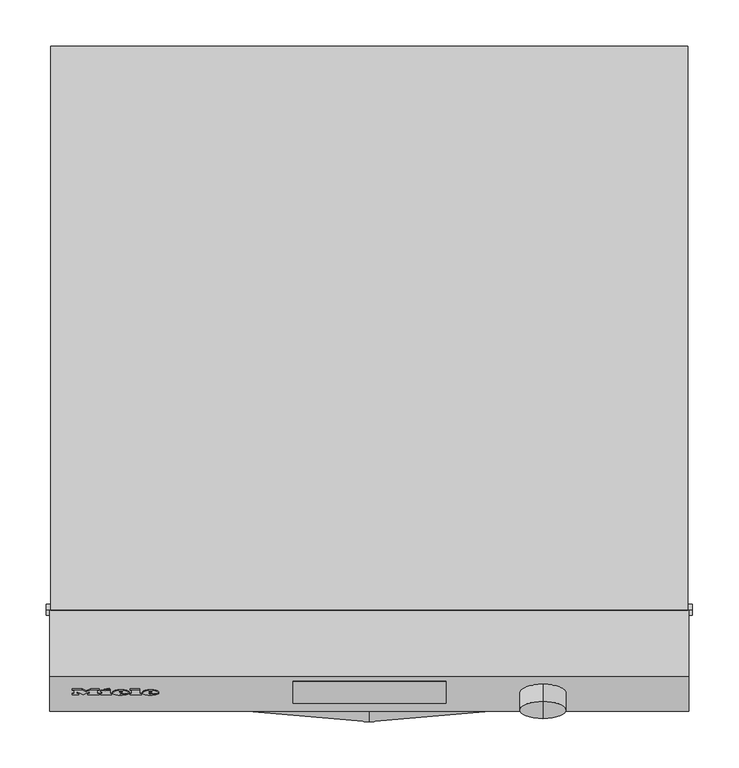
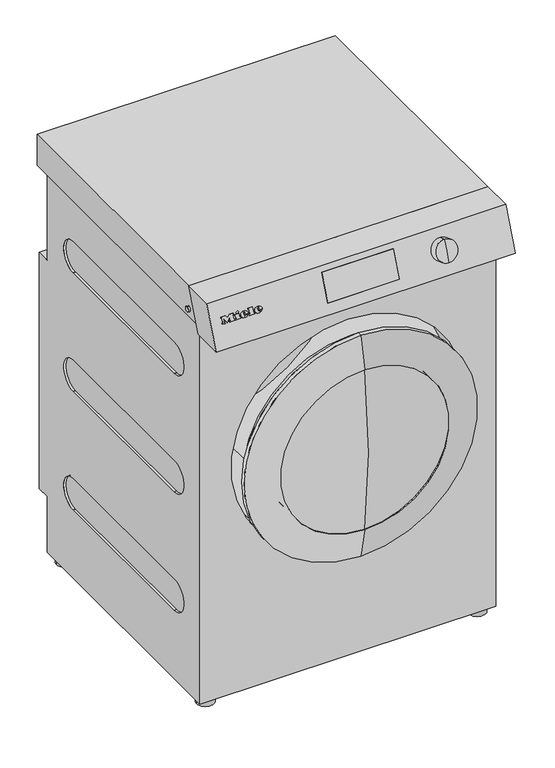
"""IFC4 building model written with IfcOpenShell, lengths in millimetres: proxy geometry, 11927690_EU_PDR510TOPEL_SST : 52510005_EU_11927690_PDR510TOPEL_SST."""

from ifc_helpers import new_model, si_unit, point, frame, frame_2d, origin, origin_with_axes, place, context, project, spatial, polyline, circle_curve, ellipse_curve, trimmed, segment, composite_curve, outline, extrude, faceted_brep, source, transform, mapped, element, save
from ifc_brep_helpers import plane_surface, cylinder_surface, revolved_surface, extruded_surface, advanced_brep


def specialty_equipment_035a6127(model_context):
    return source(origin(), model_context, "Body", "SolidModel", [
        advanced_brep(
        [(-238.2722, -700.6126019, 975.6957235), (-238.2722, -700.0401393, 977.1419447), (-227.9696, -700.0401393, 977.1419447), (-245.8952, -700.0401393, 977.1419447), (-241.6602, -701.9559051, 972.3021154), (-228.2314, -700.6126019, 975.6957235), (-232.8822, -700.6126019, 975.6957235), (-236.5474, -701.2474119, 974.0919931), (-238.2722, -699.3146422, 978.9747795), (-238.2722, -698.6968361, 980.5355529), (-235.6388, -698.6968361, 980.5355529), (-235.6388, -699.3146422, 978.9747795), (-238.2722, -699.6827953, 975.3276751), (-236.5474, -700.3176052, 973.7239446), (-232.8822, -699.6827953, 975.3276751), (-228.2314, -699.6827953, 975.3276751), (-241.6602, -701.0260985, 971.9340669), (-245.8952, -699.1103327, 976.7738963), (-227.9696, -699.1103327, 976.7738963), (-238.2722, -699.1103327, 976.7738963), (-238.2722, -698.3848356, 978.6067311), (-235.6388, -698.3848356, 978.6067311), (-235.6388, -697.7670295, 980.1675045), (-238.2722, -697.7670295, 980.1675045)],
        [
            (0, 1),
            (1, 2),
            (2, 3, ellipse_curve(frame((-236.9324, -700.0401393, 977.1419447), z_axis=(0.0, -0.9298066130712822, 0.36804845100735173), x_axis=(-1.0, 0.0, 0.0)), 8.9628, 7.4074)),
            (3, 4, circle_curve(frame((-239.935316, -699.8474292, 977.6287915), z_axis=(0.0, -0.9298066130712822, 0.36804845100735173), x_axis=(0.0, -0.36804845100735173, -0.9298066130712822)), 5.98284)),
            (4, 5, circle_curve(frame((-237.1118224, -698.3510914, 981.4090133), z_axis=(0.0, -0.9298066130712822, 0.36804845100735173), x_axis=(0.0, -0.36804845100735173, -0.9298066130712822)), 10.7989819)),
            (5, 6),
            (6, 7, circle_curve(frame((-235.7946118, -700.0854829, 977.0273926), z_axis=(0.0, 0.9298066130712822, -0.36804845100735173), x_axis=(0.0, -0.36804845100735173, -0.9298066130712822)), 3.2455106)),
            (7, 0, circle_curve(frame((-236.5474, -700.6126019, 975.6957235), z_axis=(0.0, 0.9298066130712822, -0.36804845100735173), x_axis=(0.0, -0.36804845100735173, -0.9298066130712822)), 1.7248)),
            (8, 9),
            (9, 10, circle_curve(frame((-236.9555, -698.6968361, 980.5355529), z_axis=(0.0, 0.9298066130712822, -0.36804845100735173), x_axis=(0.0, -0.36804845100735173, -0.9298066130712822)), 1.3167)),
            (10, 11),
            (11, 8),
            (12, 13, circle_curve(frame((-236.5474, -699.6827953, 975.3276751), z_axis=(0.0, -0.9298066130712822, 0.36804845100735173), x_axis=(0.0, -0.36804845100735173, -0.9298066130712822)), 1.7248)),
            (13, 14, circle_curve(frame((-235.7946118, -699.1556763, 976.6593441), z_axis=(0.0, -0.9298066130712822, 0.36804845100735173), x_axis=(0.0, -0.36804845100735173, -0.9298066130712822)), 3.2455106)),
            (14, 15),
            (15, 16, circle_curve(frame((-237.1118224, -697.4212848, 981.0409648), z_axis=(0.0, 0.9298066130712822, -0.36804845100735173), x_axis=(0.0, -0.36804845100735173, -0.9298066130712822)), 10.7989819)),
            (16, 17, circle_curve(frame((-239.935316, -698.9176225, 977.260743), z_axis=(0.0, 0.9298066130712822, -0.36804845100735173), x_axis=(0.0, -0.36804845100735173, -0.9298066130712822)), 5.98284)),
            (17, 18, ellipse_curve(frame((-236.9324, -699.1103327, 976.7738963), z_axis=(0.0, 0.9298066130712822, -0.36804845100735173), x_axis=(-1.0, 0.0, 0.0)), 8.9628, 7.4074)),
            (18, 19),
            (19, 12),
            (20, 21),
            (21, 22),
            (22, 23, circle_curve(frame((-236.9555, -697.7670295, 980.1675045), z_axis=(0.0, -0.9298066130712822, 0.36804845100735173), x_axis=(0.0, -0.36804845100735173, -0.9298066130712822)), 1.3167)),
            (23, 20),
            (0, 12),
            (19, 1),
            (18, 2),
            (5, 15),
            (14, 6),
            (17, 3),
            (13, 7),
            (16, 4),
            (8, 20),
            (23, 9),
            (22, 10),
            (21, 11),
        ],
        [
            plane_surface(frame((-238.2722, -700.0401393, 977.1419447), z_axis=(0.0, -0.9298066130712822, 0.36804845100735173), x_axis=(0.0, 0.36804845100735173, 0.9298066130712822))),
            plane_surface(frame((-238.2722, -699.1103327, 976.7738963), z_axis=(0.0, 0.9298066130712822, -0.36804845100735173), x_axis=(0.0, -0.36804845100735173, -0.9298066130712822))),
            plane_surface(frame((-238.2722, -700.6126019, 975.6957235), z_axis=(1.0, 0.0, 0.0), x_axis=(0.0, 0.9298066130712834, -0.3680484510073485))),
            plane_surface(frame((-238.2722, -700.0401393, 977.1419447), z_axis=(0.0, -0.3680484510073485, -0.9298066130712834), x_axis=(0.0, 0.9298066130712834, -0.3680484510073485))),
            plane_surface(frame((-228.2314, -700.6126019, 975.6957235), z_axis=(0.0, 0.3680484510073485, 0.9298066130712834), x_axis=(0.0, 0.9298066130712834, -0.3680484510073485))),
            extruded_surface(trimmed(ellipse_curve(frame((-236.9324, -698.1805261, 976.4058478), z_axis=(0.0, -0.9298066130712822, 0.36804845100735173), x_axis=(-1.0, 0.0, 0.0)), 8.9628, 7.4074), [point((-227.9696, -698.1805261, 976.4058478))], [point((-245.8952, -698.1805261, 976.4058478))], True, "CARTESIAN"), (0.0, -0.9298066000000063, 0.3680485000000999), 1.0000000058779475),
            revolved_surface(polyline([(-235.7946118, -700.3501813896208, 973.6416468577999), (-235.7946118, -701.2799880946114, 974.009695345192)]), (-235.7946118, -699.1556763, 976.6593441), (0.0, 0.9298066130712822, -0.36804845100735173)),
            revolved_surface(polyline([(-236.5474, -700.3176051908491, 973.723944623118), (-236.5474, -701.2474118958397, 974.0919931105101)]), (-236.5474, -699.6827953, 975.3276751), (0.0, 0.9298066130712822, -0.36804845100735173)),
            cylinder_surface(frame((-239.935316, -698.9176225, 977.260743), z_axis=(0.0, -0.9298066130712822, 0.36804845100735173), x_axis=(0.0, -0.36804845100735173, -0.9298066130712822)), 5.98284),
            cylinder_surface(frame((-237.1118224, -697.4212848, 981.0409648), z_axis=(0.0, -0.9298066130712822, 0.36804845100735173), x_axis=(0.0, -0.36804845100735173, -0.9298066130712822)), 10.7989819),
            plane_surface(frame((-238.2722, -699.3146422, 978.9747795), z_axis=(1.0, 0.0, 0.0), x_axis=(0.0, 0.9298066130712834, -0.3680484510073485))),
            revolved_surface(polyline([(-236.9555, -698.2516388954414, 978.943228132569), (-236.9555, -699.1814454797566, 979.3112765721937)]), (-236.9555, -697.7670295, 980.1675045), (0.0, 0.9298066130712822, -0.36804845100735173)),
            plane_surface(frame((-235.6388, -698.6968361, 980.5355529), z_axis=(-1.0, 0.0, 0.0), x_axis=(0.0, 0.9298066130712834, -0.3680484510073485))),
            plane_surface(frame((-235.6388, -699.3146422, 978.9747795), z_axis=(0.0, 0.3680484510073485, 0.9298066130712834), x_axis=(0.0, 0.9298066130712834, -0.3680484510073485))),
        ],
        [
            (0, [[1, 2, 3, 4, 5, 6, 7, 8], [9, 10, 11, 12]]),
            (1, [[13, 14, 15, 16, 17, 18, 19, 20], [21, 22, 23, 24]]),
            (2, [[-1, 25, -20, 26]]),
            (3, [[-2, -26, -19, 27]]),
            (4, [[-6, 28, -15, 29]]),
            (5, [[-3, -27, -18, 30]]),
            (6, [[-7, -29, -14, 31]]),
            (7, [[-8, -31, -13, -25]]),
            (8, [[-4, -30, -17, 32]]),
            (9, [[-5, -32, -16, -28]]),
            (10, [[-9, 33, -24, 34]]),
            (11, [[-10, -34, -23, 35]]),
            (12, [[-11, -35, -22, 36]]),
            (13, [[-12, -36, -21, -33]]),
        ],
    ),
        advanced_brep(
        [(-270.412, -700.6126019, 975.6957235), (-270.412, -700.0401393, 977.1419447), (-260.1094, -700.0401393, 977.1419447), (-278.035, -700.0401393, 977.1419447), (-273.8, -701.9559051, 972.3021154), (-260.3712, -700.6126019, 975.6957235), (-265.022, -700.6126019, 975.6957235), (-268.6872, -701.2474119, 974.0919931), (-270.412, -699.3146422, 978.9747795), (-270.412, -698.6968361, 980.5355529), (-267.7786, -698.6968361, 980.5355529), (-267.7786, -699.3146422, 978.9747795), (-270.412, -699.6827953, 975.3276751), (-268.6872, -700.3176052, 973.7239446), (-265.022, -699.6827953, 975.3276751), (-260.3712, -699.6827953, 975.3276751), (-273.8, -701.0260985, 971.9340669), (-278.035, -699.1103327, 976.7738963), (-260.1094, -699.1103327, 976.7738963), (-270.412, -699.1103327, 976.7738963), (-270.412, -698.3848356, 978.6067311), (-267.7786, -698.3848356, 978.6067311), (-267.7786, -697.7670295, 980.1675045), (-270.412, -697.7670295, 980.1675045)],
        [
            (0, 1),
            (1, 2),
            (2, 3, ellipse_curve(frame((-269.0722, -700.0401393, 977.1419447), z_axis=(0.0, -0.9298066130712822, 0.36804845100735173), x_axis=(-1.0, 0.0, 0.0)), 8.9628, 7.4074)),
            (3, 4, circle_curve(frame((-272.075116, -699.8474292, 977.6287915), z_axis=(0.0, -0.9298066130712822, 0.36804845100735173), x_axis=(0.0, -0.36804845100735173, -0.9298066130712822)), 5.98284)),
            (4, 5, circle_curve(frame((-269.2516224, -698.3510914, 981.4090133), z_axis=(0.0, -0.9298066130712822, 0.36804845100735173), x_axis=(0.0, -0.36804845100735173, -0.9298066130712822)), 10.7989819)),
            (5, 6),
            (6, 7, circle_curve(frame((-267.9344118, -700.0854829, 977.0273926), z_axis=(0.0, 0.9298066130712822, -0.36804845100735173), x_axis=(0.0, -0.36804845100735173, -0.9298066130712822)), 3.2455106)),
            (7, 0, circle_curve(frame((-268.6872, -700.6126019, 975.6957235), z_axis=(0.0, 0.9298066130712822, -0.36804845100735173), x_axis=(0.0, -0.36804845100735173, -0.9298066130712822)), 1.7248)),
            (8, 9),
            (9, 10, circle_curve(frame((-269.0953, -698.6968361, 980.5355529), z_axis=(0.0, 0.9298066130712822, -0.36804845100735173), x_axis=(0.0, -0.36804845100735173, -0.9298066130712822)), 1.3167)),
            (10, 11),
            (11, 8),
            (12, 13, circle_curve(frame((-268.6872, -699.6827953, 975.3276751), z_axis=(0.0, -0.9298066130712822, 0.36804845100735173), x_axis=(0.0, -0.36804845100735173, -0.9298066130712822)), 1.7248)),
            (13, 14, circle_curve(frame((-267.9344118, -699.1556763, 976.6593441), z_axis=(0.0, -0.9298066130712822, 0.36804845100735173), x_axis=(0.0, -0.36804845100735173, -0.9298066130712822)), 3.2455106)),
            (14, 15),
            (15, 16, circle_curve(frame((-269.2516224, -697.4212848, 981.0409648), z_axis=(0.0, 0.9298066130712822, -0.36804845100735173), x_axis=(0.0, -0.36804845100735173, -0.9298066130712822)), 10.7989819)),
            (16, 17, circle_curve(frame((-272.075116, -698.9176225, 977.260743), z_axis=(0.0, 0.9298066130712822, -0.36804845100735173), x_axis=(0.0, -0.36804845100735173, -0.9298066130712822)), 5.98284)),
            (17, 18, ellipse_curve(frame((-269.0722, -699.1103327, 976.7738963), z_axis=(0.0, 0.9298066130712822, -0.36804845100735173), x_axis=(-1.0, 0.0, 0.0)), 8.9628, 7.4074)),
            (18, 19),
            (19, 12),
            (20, 21),
            (21, 22),
            (22, 23, circle_curve(frame((-269.0953, -697.7670295, 980.1675045), z_axis=(0.0, -0.9298066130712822, 0.36804845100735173), x_axis=(0.0, -0.36804845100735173, -0.9298066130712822)), 1.3167)),
            (23, 20),
            (0, 12),
            (19, 1),
            (18, 2),
            (5, 15),
            (14, 6),
            (17, 3),
            (13, 7),
            (16, 4),
            (8, 20),
            (23, 9),
            (22, 10),
            (21, 11),
        ],
        [
            plane_surface(frame((-270.412, -700.0401393, 977.1419447), z_axis=(0.0, -0.9298066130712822, 0.36804845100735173), x_axis=(0.0, 0.36804845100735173, 0.9298066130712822))),
            plane_surface(frame((-270.412, -699.1103327, 976.7738963), z_axis=(0.0, 0.9298066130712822, -0.36804845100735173), x_axis=(0.0, -0.36804845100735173, -0.9298066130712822))),
            plane_surface(frame((-270.412, -700.6126019, 975.6957235), z_axis=(1.0, 0.0, 0.0), x_axis=(0.0, 0.9298066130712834, -0.3680484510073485))),
            plane_surface(frame((-270.412, -700.0401393, 977.1419447), z_axis=(0.0, -0.3680484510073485, -0.9298066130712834), x_axis=(0.0, 0.9298066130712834, -0.3680484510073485))),
            plane_surface(frame((-260.3712, -700.6126019, 975.6957235), z_axis=(0.0, 0.3680484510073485, 0.9298066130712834), x_axis=(0.0, 0.9298066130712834, -0.3680484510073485))),
            extruded_surface(trimmed(ellipse_curve(frame((-269.0722, -698.1805261, 976.4058478), z_axis=(0.0, -0.9298066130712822, 0.36804845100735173), x_axis=(-1.0, 0.0, 0.0)), 8.9628, 7.4074), [point((-260.1094, -698.1805261, 976.4058478))], [point((-278.035, -698.1805261, 976.4058478))], True, "CARTESIAN"), (0.0, -0.9298066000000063, 0.3680485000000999), 1.0000000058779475),
            revolved_surface(polyline([(-267.9344118, -700.3501813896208, 973.6416468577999), (-267.9344118, -701.2799880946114, 974.009695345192)]), (-267.9344118, -699.1556763, 976.6593441), (0.0, 0.9298066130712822, -0.36804845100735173)),
            revolved_surface(polyline([(-268.6872, -700.3176051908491, 973.723944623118), (-268.6872, -701.2474118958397, 974.0919931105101)]), (-268.6872, -699.6827953, 975.3276751), (0.0, 0.9298066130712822, -0.36804845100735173)),
            cylinder_surface(frame((-272.075116, -698.9176225, 977.260743), z_axis=(0.0, -0.9298066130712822, 0.36804845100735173), x_axis=(0.0, -0.36804845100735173, -0.9298066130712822)), 5.98284),
            cylinder_surface(frame((-269.2516224, -697.4212848, 981.0409648), z_axis=(0.0, -0.9298066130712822, 0.36804845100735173), x_axis=(0.0, -0.36804845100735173, -0.9298066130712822)), 10.7989819),
            plane_surface(frame((-270.412, -699.3146422, 978.9747795), z_axis=(1.0, 0.0, 0.0), x_axis=(0.0, 0.9298066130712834, -0.3680484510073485))),
            revolved_surface(polyline([(-269.0953, -698.2516388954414, 978.943228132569), (-269.0953, -699.1814454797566, 979.3112765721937)]), (-269.0953, -697.7670295, 980.1675045), (0.0, 0.9298066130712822, -0.36804845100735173)),
            plane_surface(frame((-267.7786, -698.6968361, 980.5355529), z_axis=(-1.0, 0.0, 0.0), x_axis=(0.0, 0.9298066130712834, -0.3680484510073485))),
            plane_surface(frame((-267.7786, -699.3146422, 978.9747795), z_axis=(0.0, 0.3680484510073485, 0.9298066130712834), x_axis=(0.0, 0.9298066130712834, -0.3680484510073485))),
        ],
        [
            (0, [[1, 2, 3, 4, 5, 6, 7, 8], [9, 10, 11, 12]]),
            (1, [[13, 14, 15, 16, 17, 18, 19, 20], [21, 22, 23, 24]]),
            (2, [[-1, 25, -20, 26]]),
            (3, [[-2, -26, -19, 27]]),
            (4, [[-6, 28, -15, 29]]),
            (5, [[-3, -27, -18, 30]]),
            (6, [[-7, -29, -14, 31]]),
            (7, [[-8, -31, -13, -25]]),
            (8, [[-4, -30, -17, 32]]),
            (9, [[-5, -32, -16, -28]]),
            (10, [[-9, 33, -24, 34]]),
            (11, [[-10, -34, -23, 35]]),
            (12, [[-11, -35, -22, 36]]),
            (13, [[-12, -36, -21, -33]]),
        ],
    ),
        extrude(outline(polyline([(0.0, 0.0), (-0.0209991, -5.7737091), (-2.7701549, -5.7597671), (-2.7556966, 0.0), (0.0, 0.0)])), frame((-287.2442, -695.6925612, 985.4082665), z_axis=(0.0, -0.9298066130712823, 0.3680484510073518), x_axis=(-0.4247202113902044, 0.33320333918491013, 0.8417768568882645)), (0.0, 0.0, 1.0), 1.0),
        extrude(outline(polyline([(-0.9497773, 4.6471612), (-5.3516625, -4.7358047), (-13.5635003, -0.8833376), (-14.3222205, -2.5006095), (-16.6644765, -1.4017734), (-11.5038711, 9.5984644), (-9.1616151, 8.4996283), (-9.9399574, 6.8405303), (-4.2237375, 4.1588469), (-3.4453952, 5.8179449), (-0.9497773, 4.6471612)])), frame((-287.2442, -695.6925612, 985.4082665), z_axis=(0.0, -0.9298066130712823, 0.3680484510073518), x_axis=(-0.4247202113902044, 0.33320333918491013, 0.8417768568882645)), (0.0, 0.0, 1.0), 1.0),
        extrude(outline(polyline([(0.0, 0.0), (0.0, -2.5102), (-10.5952, -2.5102), (-10.5952, 10.3026), (-12.4894, 10.3026), (-12.4894, 12.8898), (0.0, 12.8898), (0.0, 10.3026), (-1.848, 10.3026), (-1.848, 0.0), (0.0, 0.0)])), frame((-259.247, -696.2820276, 983.9190882), z_axis=(0.0, -0.9298066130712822, 0.36804845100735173), x_axis=(-1.0, 0.0, 0.0)), (0.0, 0.0, 1.0), 1.0),
        extrude(outline(polyline([(0.0, 0.0), (0.0, -2.5102), (-10.7338, -2.5102), (-15.246, 3.2648), (-19.7428, -2.5102), (-29.1214, -2.5102), (-29.1214, 0.0), (-27.1656, 0.0), (-27.1656, 10.3026), (-29.1214, 10.3026), (-29.1214, 12.8898), (-16.8322, 12.8898), (-16.8322, 10.3026), (-18.7264, 10.3026), (-18.7264, 3.7307777), (-11.8118, 12.8898), (-4.928, 3.7988752), (-4.928, 10.3026), (-6.776, 10.3026), (-6.776, 12.8898), (0.0, 12.8898), (0.0, 10.3026), (-1.8634, 10.3026), (-1.8634, 0.0), (0.0, 0.0)])), frame((-321.7402, -696.2820276, 983.9190882), z_axis=(0.0, -0.9298066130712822, 0.36804845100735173), x_axis=(-1.0, 0.0, 0.0)), (0.0, 0.0, 1.0), 1.0),
        extrude(outline(polyline([(-639.7145833, 946.7), (-711.0145833, 946.7), (-687.0666667, 1007.2), (-615.7666667, 1007.2), (-639.7145833, 946.7)])), frame((-82.85, 0.0, 0.0), z_axis=(1.0, 0.0, 0.0), x_axis=(0.0, 1.0, 0.0)), (0.0, 0.0, 1.0), 165.7),
        faceted_brep([(346.0, -610.7, 1020.0), (346.0, -682.0, 1020.0), (346.0, -720.0, 924.0), (346.0, -648.7, 924.0), (-346.0, -610.7, 1020.0), (-346.0, -648.7, 924.0), (-346.0, -720.0, 924.0), (-346.0, -682.0, 1020.0), (-82.85, -687.0666667, 1007.2), (82.85, -687.0666667, 1007.2), (82.85, -711.0145833, 946.7), (-82.85, -711.0145833, 946.7), (82.85, -615.7666667, 1007.2), (-82.85, -615.7666667, 1007.2), (-82.85, -639.7145833, 946.7), (82.85, -639.7145833, 946.7)], [[[0, 1, 2, 3]], [[4, 5, 6, 7]], [[1, 0, 4, 7]], [[2, 1, 7, 6], [8, 9, 10, 11]], [[3, 2, 6, 5]], [[0, 3, 5, 4], [12, 13, 14, 15]], [[12, 9, 8, 13]], [[13, 8, 11, 14]], [[14, 11, 10, 15]], [[9, 12, 15, 10]]]),
        advanced_brep(
        [(188.0, -727.5986435, 960.8180789), (188.0, -709.1924159, 1007.3069032), (188.0, -690.5968862, 999.9444121), (188.0, -709.0031138, 953.4555879), (188.0, -718.9636109, 984.2874103), (188.0, -699.8, 976.7)],
        [
            (0, 1, circle_curve(frame((188.0, -718.3955297, 984.0624911), z_axis=(0.0, 0.9297764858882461, -0.36812455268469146), x_axis=(0.0, 0.36812455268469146, 0.9297764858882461)), 25.0)),
            (1, 2),
            (2, 3, circle_curve(frame((188.0, -699.8, 976.7), z_axis=(0.0, -0.9297764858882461, 0.36812455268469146), x_axis=(0.0, 0.36812455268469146, 0.9297764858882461)), 25.0)),
            (3, 0),
            (1, 0, circle_curve(frame((188.0, -718.3955297, 984.0624911), z_axis=(0.0, 0.9297764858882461, -0.36812455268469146), x_axis=(0.0, 0.36812455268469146, 0.9297764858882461)), 25.0)),
            (3, 2, circle_curve(frame((188.0, -699.8, 976.7), z_axis=(0.0, -0.9297764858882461, 0.36812455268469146), x_axis=(0.0, 0.36812455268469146, 0.9297764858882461)), 25.0)),
            (4, 1),
            (0, 4),
            (2, 5),
            (5, 3),
        ],
        [
            cylinder_surface(frame((188.0, -699.8, 976.7), z_axis=(0.0, -0.9297764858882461, 0.36812455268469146), x_axis=(0.0, 0.36812455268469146, 0.9297764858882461)), 25.0),
            revolved_surface(polyline([(188.0, -709.1924159, 1007.3069032), (188.0, -718.9636109, 984.2874103)]), (188.0, -699.8, 976.7), (0.0, -0.9297764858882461, 0.36812455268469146)),
            plane_surface(frame((188.0, -699.8, 976.7), z_axis=(0.0, 0.9297764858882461, -0.36812455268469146), x_axis=(0.0, 0.36812455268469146, 0.9297764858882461))),
        ],
        [
            (0, [[1, 2, 3, 4]]),
            (0, [[5, -4, 6, -2]]),
            (1, [[7, -1, 8]]),
            (1, [[-8, -5, -7]]),
            (2, [[-3, 9, 10]]),
            (2, [[-6, -10, -9]]),
        ],
    ),
        extrude(outline(polyline([(0.0, 943.8), (-640.9, 943.8), (-610.7, 1020.0), (0.0, 1020.0), (0.0, 943.8)])), frame((-345.0, 0.0, 0.0), z_axis=(1.0, 0.0, 0.0), x_axis=(0.0, 1.0, 0.0)), (0.0, 0.0, 1.0), 690.0),
        extrude(outline(composite_curve([segment(trimmed(circle_curve(frame_2d((-610.0, 963.8)), 6.0), [point((-610.0, 957.8))], [point((-610.0, 969.8))], False, "CARTESIAN"), True, "CONTINUOUS"), segment(trimmed(circle_curve(frame_2d((-610.0, 963.8)), 6.0), [point((-610.0, 969.8))], [point((-610.0, 957.8))], False, "CARTESIAN"), True, "CONTINUOUS")], self_intersect=False)), frame((-350.0, 0.0, 0.0), z_axis=(1.0, 0.0, 0.0), x_axis=(0.0, 1.0, 0.0)), (0.0, 0.0, 1.0), 5.0),
        extrude(outline(composite_curve([segment(trimmed(circle_curve(frame_2d((-610.0, 963.8)), 6.0), [point((-610.0, 957.8))], [point((-610.0, 969.8))], False, "CARTESIAN"), True, "CONTINUOUS"), segment(trimmed(circle_curve(frame_2d((-610.0, 963.8)), 6.0), [point((-610.0, 969.8))], [point((-610.0, 957.8))], False, "CARTESIAN"), True, "CONTINUOUS")], self_intersect=False)), frame((345.0, 0.0, 0.0), z_axis=(1.0, 0.0, 0.0), x_axis=(0.0, 1.0, 0.0)), (0.0, 0.0, 1.0), 5.0),
        advanced_brep(
        [(-0.6181593, -731.0, 562.28215), (-0.6181593, -714.5357304, 758.08215), (-0.6181593, -714.5357304, 366.48215), (-0.6181593, -655.0, 366.48215), (-0.6181593, -655.0, 758.08215), (-0.6181593, -655.0, 562.28215)],
        [
            (0, 1, circle_curve(frame((-0.6181593, 441.5, 562.28215), z_axis=(-1.0, 0.0, 0.0), x_axis=(0.0, 1.0, 0.0)), 1172.5)),
            (1, 2, circle_curve(frame((-0.6181593, -714.5357304, 562.28215), z_axis=(0.0, -1.0, 0.0), x_axis=(0.0, 0.0, 1.0)), 195.8)),
            (2, 0, circle_curve(frame((-0.6181593, 441.5, 562.28215), z_axis=(-1.0, 0.0, 0.0), x_axis=(0.0, 1.0, 0.0)), 1172.5)),
            (2, 1, circle_curve(frame((-0.6181593, -714.5357304, 562.28215), z_axis=(0.0, -1.0, 0.0), x_axis=(0.0, 0.0, 1.0)), 195.8)),
            (3, 4, circle_curve(frame((-0.6181593, -655.0, 562.28215), z_axis=(0.0, 1.0, 0.0), x_axis=(0.0, 0.0, 1.0)), 195.8)),
            (4, 5),
            (5, 3),
            (4, 3, circle_curve(frame((-0.6181593, -655.0, 562.28215), z_axis=(0.0, 1.0, 0.0), x_axis=(0.0, 0.0, 1.0)), 195.8)),
            (1, 4),
            (3, 2),
        ],
        [
            revolved_surface(trimmed(ellipse_curve(frame((-0.6181593, 441.5, 562.28215), z_axis=(1.0, 0.0, 0.0), x_axis=(0.0, 1.0, 0.0)), 1172.5, 1172.5), [point((-0.6181593, -714.5357304, 758.08215))], [point((-0.6181593, -731.0, 562.28215))], True, "CARTESIAN"), (-0.6181593, -1133.7365177, 562.28215), (0.0, -1.0, 0.0)),
            plane_surface(frame((-0.6181593, -655.0, 562.28215), z_axis=(0.0, 1.0, 0.0), x_axis=(0.0, 0.0, 1.0))),
            cylinder_surface(frame((-0.6181593, -1133.7365177, 562.28215), z_axis=(0.0, -1.0, 0.0), x_axis=(0.0, 0.0, 1.0)), 195.8),
        ],
        [
            (0, [[1, 2, 3]]),
            (0, [[-3, 4, -1]]),
            (1, [[5, 6, 7]]),
            (1, [[8, -7, -6]]),
            (2, [[-2, 9, -5, 10]]),
            (2, [[-4, -10, -8, -9]]),
        ],
    ),
        advanced_brep(
        [(-0.6181593, -655.0, 327.28215), (-0.6181593, -655.0, 797.28215), (-0.6181593, -655.0, 758.08215), (-0.6181593, -655.0, 366.48215), (-0.6181593, -661.5, 315.18215), (-0.6181593, -661.5, 809.38215), (-0.6181593, -690.7, 292.28215), (-0.6181593, -690.7, 832.28215), (-0.6181593, -700.5, 292.28215), (-0.6181593, -700.5, 832.28215), (-0.6181593, -717.25, 366.48215), (-0.6181593, -717.25, 758.08215)],
        [
            (0, 1, circle_curve(frame((-0.6181593, -655.0, 562.28215), z_axis=(0.0, 1.0, 0.0), x_axis=(0.0, 0.0, 1.0)), 235.0)),
            (1, 2),
            (2, 3, circle_curve(frame((-0.6181593, -655.0, 562.28215), z_axis=(0.0, -1.0, 0.0), x_axis=(0.0, 0.0, 1.0)), 195.8)),
            (3, 0),
            (1, 0, circle_curve(frame((-0.6181593, -655.0, 562.28215), z_axis=(0.0, 1.0, 0.0), x_axis=(0.0, 0.0, 1.0)), 235.0)),
            (3, 2, circle_curve(frame((-0.6181593, -655.0, 562.28215), z_axis=(0.0, -1.0, 0.0), x_axis=(0.0, 0.0, 1.0)), 195.8)),
            (4, 5, circle_curve(frame((-0.6181593, -661.5, 562.28215), z_axis=(0.0, 1.0, 0.0), x_axis=(0.0, 0.0, 1.0)), 247.1)),
            (5, 1),
            (0, 4),
            (5, 4, circle_curve(frame((-0.6181593, -661.5, 562.28215), z_axis=(0.0, 1.0, 0.0), x_axis=(0.0, 0.0, 1.0)), 247.1)),
            (6, 7, circle_curve(frame((-0.6181593, -690.7, 562.28215), z_axis=(0.0, 1.0, 0.0), x_axis=(0.0, 0.0, 1.0)), 270.0)),
            (7, 5),
            (4, 6),
            (7, 6, circle_curve(frame((-0.6181593, -690.7, 562.28215), z_axis=(0.0, 1.0, 0.0), x_axis=(0.0, 0.0, 1.0)), 270.0)),
            (8, 9, circle_curve(frame((-0.6181593, -700.5, 562.28215), z_axis=(0.0, 1.0, 0.0), x_axis=(0.0, 0.0, 1.0)), 270.0)),
            (9, 7),
            (6, 8),
            (9, 8, circle_curve(frame((-0.6181593, -700.5, 562.28215), z_axis=(0.0, 1.0, 0.0), x_axis=(0.0, 0.0, 1.0)), 270.0)),
            (10, 11, circle_curve(frame((-0.6181593, -717.25, 562.28215), z_axis=(0.0, 1.0, 0.0), x_axis=(0.0, 0.0, 1.0)), 195.8)),
            (11, 9),
            (8, 10),
            (11, 10, circle_curve(frame((-0.6181593, -717.25, 562.28215), z_axis=(0.0, 1.0, 0.0), x_axis=(0.0, 0.0, 1.0)), 195.8)),
            (2, 11),
            (10, 3),
        ],
        [
            plane_surface(frame((-0.6181593, -655.0, 562.28215), z_axis=(0.0, 1.0, 0.0), x_axis=(0.0, 0.0, 1.0))),
            revolved_surface(polyline([(-0.6181593, -655.0, 797.28215), (-0.6181593, -661.5, 809.38215)]), (-0.6181593, -1133.7365177, 562.28215), (0.0, -1.0, 0.0)),
            revolved_surface(polyline([(-0.6181593, -661.5, 809.38215), (-0.6181593, -690.7, 832.28215)]), (-0.6181593, -1133.7365177, 562.28215), (0.0, -1.0, 0.0)),
            cylinder_surface(frame((-0.6181593, -1133.7365177, 562.28215), z_axis=(0.0, -1.0, 0.0), x_axis=(0.0, 0.0, 1.0)), 270.0),
            revolved_surface(polyline([(-0.6181593, -700.5, 832.28215), (-0.6181593, -717.25, 758.08215)]), (-0.6181593, -1133.7365177, 562.28215), (0.0, -1.0, 0.0)),
            revolved_surface(polyline([(-0.6181593, -717.25, 758.08215), (-0.6181593, -655.0, 758.08215)]), (-0.6181593, -1133.7365177, 562.28215), (0.0, -1.0, 0.0)),
        ],
        [
            (0, [[1, 2, 3, 4]]),
            (0, [[5, -4, 6, -2]]),
            (1, [[7, 8, -1, 9]]),
            (1, [[10, -9, -5, -8]]),
            (2, [[11, 12, -7, 13]]),
            (2, [[14, -13, -10, -12]]),
            (3, [[15, 16, -11, 17]]),
            (3, [[18, -17, -14, -16]]),
            (4, [[19, 20, -15, 21]]),
            (4, [[22, -21, -18, -20]]),
            (5, [[-3, 23, -19, 24]]),
            (5, [[-6, -24, -22, -23]]),
        ],
    ),
        extrude(outline(polyline([(240.6772603, -32.7), (233.3, -32.7), (233.3, -31.4442961), (239.4215564, -31.4442961), (239.4215564, -28.1480734), (233.770889, -28.1480734), (233.770889, -26.8923696), (239.4215564, -26.8923696), (239.4215564, -23.9100729), (233.456963, -23.9100729), (233.456963, -22.654369), (240.6772603, -22.654369), (240.6772603, -32.7)])), frame((0.0, 0.0, 779.0), z_axis=(0.0, 0.0, 1.0), x_axis=(1.0, 0.0, 0.0)), (0.0, 0.0, 1.0), 1.0),
        extrude(outline(polyline([(231.4164442, -32.7), (225.1379248, -32.7), (225.1379248, -31.4442961), (230.1607403, -31.4442961), (230.1607403, -22.654369), (231.4164442, -22.654369), (231.4164442, -32.7)])), frame((0.0, 0.0, 779.0), z_axis=(0.0, 0.0, 1.0), x_axis=(1.0, 0.0, 0.0)), (0.0, 0.0, 1.0), 1.0),
        extrude(outline(composite_curve([segment(trimmed(circle_curve(frame_2d((233.3, -27.7)), 7.5), [point((225.8, -27.7))], [point((240.8, -27.7))], False, "CARTESIAN"), True, "CONTINUOUS"), segment(trimmed(circle_curve(frame_2d((233.3, -27.7)), 7.5), [point((240.8, -27.7))], [point((225.8, -27.7))], False, "CARTESIAN"), True, "CONTINUOUS")], self_intersect=False)), frame((0.0, 0.0, 780.0), z_axis=(0.0, 0.0, 1.0), x_axis=(1.0, 0.0, 0.0)), (0.0, 0.0, 1.0), 30.0),
        extrude(outline(polyline([(-36.0, 810.0), (-36.0, 890.8), (-11.2, 863.0), (-11.2, 810.0), (-36.0, 810.0)])), frame((197.0, 0.0, 0.0), z_axis=(1.0, 0.0, 0.0), x_axis=(0.0, 1.0, 0.0)), (0.0, 0.0, 1.0), 76.0),
        extrude(outline(polyline([(85.0, -189.952875), (95.045631, -193.9627887), (95.045631, -195.0320991), (85.0, -199.0420128), (85.0, -197.7151851), (88.1392597, -196.5649407), (88.1392597, -192.4274945), (85.0, -191.2797027), (85.0, -189.952875)]), holes=[polyline([(89.3949636, -192.8885733), (89.3949636, -196.1063145), (91.864678, -195.2013248), (93.7899271, -194.4974439), (92.0805021, -193.8720445), (89.3949636, -192.8885733)])]), frame((0.0, -6.0, 0.0), z_axis=(0.0, 1.0, 0.0), x_axis=(0.0, 0.0, 1.0)), (0.0, 0.0, 1.0), 1.0),
        extrude(outline(polyline([(85.0, -200.3835558), (95.045631, -200.3835558), (95.045631, -201.6392597), (86.2557039, -201.6392597), (86.2557039, -206.6620752), (85.0, -206.6620752), (85.0, -200.3835558)])), frame((0.0, -6.0, 0.0), z_axis=(0.0, 1.0, 0.0), x_axis=(0.0, 0.0, 1.0)), (0.0, 0.0, 1.0), 1.0),
        extrude(outline(composite_curve([segment(trimmed(circle_curve(frame_2d((90.0, -198.5)), 57.5), [point((32.5, -198.5))], [point((147.5, -198.5))], False, "CARTESIAN"), True, "CONTINUOUS"), segment(trimmed(circle_curve(frame_2d((90.0, -198.5)), 57.5), [point((147.5, -198.5))], [point((32.5, -198.5))], False, "CARTESIAN"), True, "CONTINUOUS")], self_intersect=False)), frame((0.0, -36.0, 0.0), z_axis=(0.0, 1.0, 0.0), x_axis=(0.0, 0.0, 1.0)), (0.0, 0.0, 1.0), 30.0),
        extrude(outline(composite_curve([segment(trimmed(circle_curve(frame_2d((-314.5, -60.1)), 20.0), [point((-334.5, -60.1))], [point((-294.5, -60.1))], False, "CARTESIAN"), True, "CONTINUOUS"), segment(trimmed(circle_curve(frame_2d((-314.5, -60.1)), 20.0), [point((-294.5, -60.1))], [point((-334.5, -60.1))], False, "CARTESIAN"), True, "CONTINUOUS")], self_intersect=False)), origin_with_axes(), (0.0, 0.0, 1.0), 18.2),
        extrude(outline(composite_curve([segment(trimmed(circle_curve(frame_2d((314.5, -60.1)), 20.0), [point((294.5, -60.1))], [point((334.5, -60.1))], False, "CARTESIAN"), True, "CONTINUOUS"), segment(trimmed(circle_curve(frame_2d((314.5, -60.1)), 20.0), [point((334.5, -60.1))], [point((294.5, -60.1))], False, "CARTESIAN"), True, "CONTINUOUS")], self_intersect=False)), origin_with_axes(), (0.0, 0.0, 1.0), 18.2),
        extrude(outline(composite_curve([segment(trimmed(circle_curve(frame_2d((314.5, -621.3)), 20.0), [point((294.5, -621.3))], [point((334.5, -621.3))], False, "CARTESIAN"), True, "CONTINUOUS"), segment(trimmed(circle_curve(frame_2d((314.5, -621.3)), 20.0), [point((334.5, -621.3))], [point((294.5, -621.3))], False, "CARTESIAN"), True, "CONTINUOUS")], self_intersect=False)), origin_with_axes(), (0.0, 0.0, 1.0), 18.2),
        extrude(outline(composite_curve([segment(trimmed(circle_curve(frame_2d((-314.5, -621.3)), 20.0), [point((-334.5, -621.3))], [point((-294.5, -621.3))], False, "CARTESIAN"), True, "CONTINUOUS"), segment(trimmed(circle_curve(frame_2d((-314.5, -621.3)), 20.0), [point((-294.5, -621.3))], [point((-334.5, -621.3))], False, "CARTESIAN"), True, "CONTINUOUS")], self_intersect=False)), origin_with_axes(), (0.0, 0.0, 1.0), 18.2),
        advanced_brep(
        [(-342.5, -648.7, 18.2), (342.5, -648.7, 18.2), (342.5, -648.7, 924.0), (-342.5, -648.7, 924.0), (0.0, -648.7, 299.8), (0.0, -648.7, 839.8), (342.5, -5.0, 733.5), (342.5, -5.0, 433.0), (149.5, -5.0, 433.0), (-80.0, -5.0, 155.0), (-342.5, -5.0, 155.0), (-342.5, -5.0, 733.5), (-151.0, -5.0, 733.5), (-151.0, -5.0, 943.8), (149.5, -5.0, 943.8), (149.5, -5.0, 733.5), (-342.5, -640.9, 943.8), (342.5, -640.9, 943.8), (342.5, -36.0, 943.8), (149.5, -36.0, 943.8), (-151.0, -36.0, 943.8), (-342.5, -36.0, 943.8), (-342.5, -36.0, 733.5), (-342.5, -36.0, 155.0), (-342.5, -36.0, 18.2), (-342.5, -141.0, 841.5708469), (-342.5, -546.0, 841.5708469), (-342.5, -546.0, 765.5708469), (-342.5, -141.0, 765.5708469), (-342.5, -141.0, 261.8), (-342.5, -546.0, 261.8), (-342.5, -546.0, 185.8), (-342.5, -141.0, 185.8), (-342.5, -141.0, 551.8), (-342.5, -546.0, 551.8), (-342.5, -546.0, 475.8), (-342.5, -141.0, 475.8), (342.5, -36.0, 18.2), (342.5, -36.0, 433.0), (342.5, -36.0, 733.5), (342.5, -548.1, 841.5708469), (342.5, -141.0, 841.5708469), (342.5, -141.0, 765.5708469), (342.5, -548.1, 765.5708469), (342.5, -548.1, 551.8), (342.5, -141.0, 551.8), (342.5, -141.0, 475.8), (342.5, -548.1, 475.8), (342.5, -548.1, 261.8), (342.5, -141.0, 261.8), (342.5, -141.0, 185.8), (342.5, -548.1, 185.8), (0.0, -74.7, 245.4), (0.0, -74.7, 569.8), (0.0, -74.7, 894.2), (0.0, -583.4, 894.2), (0.0, -583.4, 245.4), (0.0, -583.4, 839.8), (0.0, -583.4, 299.8), (-151.0, -36.0, 733.5), (149.5, -36.0, 733.5), (-80.0, -36.0, 155.0), (149.5, -36.0, 433.0), (-337.3, -546.0, 765.5708469), (-337.3, -141.0, 765.5708469), (-337.3, -546.0, 551.8), (-337.3, -141.0, 551.8), (-337.3, -141.0, 475.8), (-337.3, -546.0, 475.8), (-337.3, -546.0, 261.8), (-337.3, -141.0, 261.8), (-337.3, -141.0, 185.8), (-337.3, -546.0, 185.8), (-337.3, -546.0, 841.5708469), (-337.3, -141.0, 841.5708469), (337.3, -548.1, 841.5708469), (337.3, -548.1, 765.5708469), (337.3, -141.0, 765.5708469), (337.3, -141.0, 841.5708469), (337.3, -548.1, 551.8), (337.3, -548.1, 475.8), (337.3, -141.0, 475.8), (337.3, -141.0, 551.8), (337.3, -548.1, 261.8), (337.3, -548.1, 185.8), (337.3, -141.0, 185.8), (337.3, -141.0, 261.8)],
        [
            (0, 1),
            (1, 2),
            (2, 3),
            (3, 0),
            (4, 5, circle_curve(frame((0.0, -648.7, 569.8), z_axis=(0.0, 1.0, 0.0), x_axis=(0.0, 0.0, 1.0)), 270.0)),
            (5, 4, circle_curve(frame((0.0, -648.7, 569.8), z_axis=(0.0, 1.0, 0.0), x_axis=(0.0, 0.0, 1.0)), 270.0)),
            (6, 7),
            (7, 8),
            (8, 9),
            (9, 10),
            (10, 11),
            (11, 12),
            (12, 13),
            (13, 14),
            (14, 15),
            (15, 6),
            (16, 17),
            (17, 18),
            (18, 19),
            (19, 14),
            (13, 20),
            (20, 21),
            (21, 16),
            (3, 16),
            (21, 22),
            (22, 11),
            (10, 23),
            (23, 24),
            (24, 0),
            (25, 26),
            (26, 27, circle_curve(frame((-342.5, -546.0, 803.5708469), z_axis=(1.0, 0.0, 0.0), x_axis=(0.0, 0.0, -1.0)), 38.0)),
            (27, 28),
            (28, 25, circle_curve(frame((-342.5, -141.0, 803.5708469), z_axis=(1.0, 0.0, 0.0), x_axis=(0.0, 0.0, -1.0)), 38.0)),
            (29, 30),
            (30, 31, circle_curve(frame((-342.5, -546.0, 223.8), z_axis=(1.0, 0.0, 0.0), x_axis=(0.0, 0.0, -1.0)), 38.0)),
            (31, 32),
            (32, 29, circle_curve(frame((-342.5, -141.0, 223.8), z_axis=(1.0, 0.0, 0.0), x_axis=(0.0, 0.0, -1.0)), 38.0)),
            (33, 34),
            (34, 35, circle_curve(frame((-342.5, -546.0, 513.8), z_axis=(1.0, 0.0, 0.0), x_axis=(0.0, 0.0, -1.0)), 38.0)),
            (35, 36),
            (36, 33, circle_curve(frame((-342.5, -141.0, 513.8), z_axis=(1.0, 0.0, 0.0), x_axis=(0.0, 0.0, -1.0)), 38.0)),
            (24, 37),
            (37, 1),
            (37, 38),
            (38, 7),
            (6, 39),
            (39, 18),
            (17, 2),
            (40, 41),
            (41, 42, circle_curve(frame((342.5, -141.0, 803.5708469), z_axis=(-1.0, 0.0, 0.0), x_axis=(0.0, 0.0, -1.0)), 38.0)),
            (42, 43),
            (43, 40, circle_curve(frame((342.5, -548.1, 803.5708469), z_axis=(-1.0, 0.0, 0.0), x_axis=(0.0, 0.0, -1.0)), 38.0)),
            (44, 45),
            (45, 46, circle_curve(frame((342.5, -141.0, 513.8), z_axis=(-1.0, 0.0, 0.0), x_axis=(0.0, 0.0, -1.0)), 38.0)),
            (46, 47),
            (47, 44, circle_curve(frame((342.5, -548.1, 513.8), z_axis=(-1.0, 0.0, 0.0), x_axis=(0.0, 0.0, -1.0)), 38.0)),
            (48, 49),
            (49, 50, circle_curve(frame((342.5, -141.0, 223.8), z_axis=(-1.0, 0.0, 0.0), x_axis=(0.0, 0.0, -1.0)), 38.0)),
            (50, 51),
            (51, 48, circle_curve(frame((342.5, -548.1, 223.8), z_axis=(-1.0, 0.0, 0.0), x_axis=(0.0, 0.0, -1.0)), 38.0)),
            (52, 53),
            (53, 54),
            (54, 52, circle_curve(frame((0.0, -74.7, 569.8), z_axis=(0.0, -1.0, 0.0), x_axis=(0.0, 0.0, 1.0)), 324.4)),
            (52, 54, circle_curve(frame((0.0, -74.7, 569.8), z_axis=(0.0, -1.0, 0.0), x_axis=(0.0, 0.0, 1.0)), 324.4)),
            (54, 55),
            (55, 56, circle_curve(frame((0.0, -583.4, 569.8), z_axis=(0.0, -1.0, 0.0), x_axis=(0.0, 0.0, 1.0)), 324.4)),
            (56, 52),
            (56, 55, circle_curve(frame((0.0, -583.4, 569.8), z_axis=(0.0, -1.0, 0.0), x_axis=(0.0, 0.0, 1.0)), 324.4)),
            (55, 57),
            (57, 58, circle_curve(frame((0.0, -583.4, 569.8), z_axis=(0.0, -1.0, 0.0), x_axis=(0.0, 0.0, 1.0)), 270.0)),
            (58, 56),
            (58, 57, circle_curve(frame((0.0, -583.4, 569.8), z_axis=(0.0, -1.0, 0.0), x_axis=(0.0, 0.0, 1.0)), 270.0)),
            (57, 5),
            (4, 58),
            (59, 22),
            (20, 59),
            (39, 60),
            (60, 19),
            (23, 61),
            (61, 62),
            (62, 38),
            (59, 12),
            (60, 15),
            (62, 8),
            (61, 9),
            (63, 64),
            (64, 28),
            (27, 63),
            (65, 66),
            (66, 67, circle_curve(frame((-337.3, -141.0, 513.8), z_axis=(-1.0, 0.0, 0.0), x_axis=(0.0, 0.0, -1.0)), 38.0)),
            (67, 68),
            (68, 65, circle_curve(frame((-337.3, -546.0, 513.8), z_axis=(-1.0, 0.0, 0.0), x_axis=(0.0, 0.0, -1.0)), 38.0)),
            (69, 70),
            (70, 71, circle_curve(frame((-337.3, -141.0, 223.8), z_axis=(-1.0, 0.0, 0.0), x_axis=(0.0, 0.0, -1.0)), 38.0)),
            (71, 72),
            (72, 69, circle_curve(frame((-337.3, -546.0, 223.8), z_axis=(-1.0, 0.0, 0.0), x_axis=(0.0, 0.0, -1.0)), 38.0)),
            (73, 74),
            (74, 64, circle_curve(frame((-337.3, -141.0, 803.5708469), z_axis=(-1.0, 0.0, 0.0), x_axis=(0.0, 0.0, -1.0)), 38.0)),
            (63, 73, circle_curve(frame((-337.3, -546.0, 803.5708469), z_axis=(-1.0, 0.0, 0.0), x_axis=(0.0, 0.0, -1.0)), 38.0)),
            (69, 30),
            (29, 70),
            (73, 26),
            (25, 74),
            (65, 34),
            (33, 66),
            (36, 67),
            (35, 68),
            (32, 71),
            (31, 72),
            (75, 76, circle_curve(frame((337.3, -548.1, 803.5708469), z_axis=(1.0, 0.0, 0.0), x_axis=(0.0, 0.0, -1.0)), 38.0)),
            (76, 77),
            (77, 78, circle_curve(frame((337.3, -141.0, 803.5708469), z_axis=(1.0, 0.0, 0.0), x_axis=(0.0, 0.0, -1.0)), 38.0)),
            (78, 75),
            (79, 80, circle_curve(frame((337.3, -548.1, 513.8), z_axis=(1.0, 0.0, 0.0), x_axis=(0.0, 0.0, -1.0)), 38.0)),
            (80, 81),
            (81, 82, circle_curve(frame((337.3, -141.0, 513.8), z_axis=(1.0, 0.0, 0.0), x_axis=(0.0, 0.0, -1.0)), 38.0)),
            (82, 79),
            (83, 84, circle_curve(frame((337.3, -548.1, 223.8), z_axis=(1.0, 0.0, 0.0), x_axis=(0.0, 0.0, -1.0)), 38.0)),
            (84, 85),
            (85, 86, circle_curve(frame((337.3, -141.0, 223.8), z_axis=(1.0, 0.0, 0.0), x_axis=(0.0, 0.0, -1.0)), 38.0)),
            (86, 83),
            (78, 41),
            (40, 75),
            (77, 42),
            (76, 43),
            (82, 45),
            (44, 79),
            (81, 46),
            (80, 47),
            (86, 49),
            (48, 83),
            (85, 50),
            (84, 51),
        ],
        [
            plane_surface(frame((-342.5, -648.7, 943.8), z_axis=(0.0, -1.0, 0.0), x_axis=(-1.0, 0.0, 0.0))),
            plane_surface(frame((-342.5, -5.0, 943.8), z_axis=(0.0, 1.0, 0.0), x_axis=(1.0, 0.0, 0.0))),
            plane_surface(frame((342.5, -648.7, 943.8), z_axis=(0.0, 0.0, 1.0), x_axis=(0.0, 1.0, 0.0))),
            plane_surface(frame((-342.5, -648.7, 943.8), z_axis=(-1.0, 0.0, 0.0), x_axis=(0.0, 1.0, 0.0))),
            plane_surface(frame((-342.5, -648.7, 18.2), z_axis=(0.0, 0.0, -1.0), x_axis=(0.0, 1.0, 0.0))),
            plane_surface(frame((342.5, -648.7, 18.2), z_axis=(1.0, 0.0, 0.0), x_axis=(0.0, 1.0, 0.0))),
            plane_surface(frame((0.0, -74.7, 569.8), z_axis=(0.0, -1.0, 0.0), x_axis=(0.0, 0.0, 1.0))),
            revolved_surface(polyline([(0.0, -583.4, 894.1999999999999), (0.0, -74.70000000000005, 894.1999999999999)]), (0.0, -777.4462454, 569.8), (0.0, -1.0, 0.0)),
            plane_surface(frame((0.0, -583.4, 569.8), z_axis=(0.0, 1.0, 0.0), x_axis=(0.0, 0.0, 1.0))),
            revolved_surface(polyline([(0.0, -648.7, 839.8), (0.0, -583.4, 839.8)]), (0.0, -777.4462454, 569.8), (0.0, -1.0, 0.0)),
            plane_surface(frame((-342.5, -640.9, 943.8), z_axis=(0.0, -0.9304083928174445, 0.36652451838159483), x_axis=(1.0, 0.0, 0.0))),
            plane_surface(frame((-151.0, -36.0, 733.5), z_axis=(0.0, 1.0, 0.0), x_axis=(1.0, 0.0, 0.0))),
            plane_surface(frame((-342.5, -36.0, 733.5), z_axis=(0.0, 0.0, 1.0), x_axis=(0.0, 1.0, 0.0))),
            plane_surface(frame((-151.0, -36.0, 733.5), z_axis=(-1.0, 0.0, 0.0), x_axis=(0.0, 1.0, 0.0))),
            plane_surface(frame((149.5, -36.0, 1020.0), z_axis=(1.0, 0.0, 0.0), x_axis=(0.0, 1.0, 0.0))),
            plane_surface(frame((149.5, -36.0, 733.5), z_axis=(0.0, 0.0, 1.0), x_axis=(0.0, 1.0, 0.0))),
            plane_surface(frame((342.5, -36.0, 433.0), z_axis=(0.0, 0.0, -1.0), x_axis=(0.0, 1.0, 0.0))),
            plane_surface(frame((149.5, -36.0, 433.0), z_axis=(0.7711689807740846, 0.0, -0.636630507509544), x_axis=(0.0, 1.0, 0.0))),
            plane_surface(frame((-80.0, -36.0, 155.0), z_axis=(0.0, 0.0, -1.0), x_axis=(0.0, 1.0, 0.0))),
            plane_surface(frame((-337.3, -546.0, 765.5708469), z_axis=(0.0, 0.0, 1.0), x_axis=(-1.0, 0.0, 0.0))),
            plane_surface(frame((-337.3, -546.0, 765.5708469), z_axis=(-1.0, 0.0, 0.0), x_axis=(0.0, 1.0, 0.0))),
            plane_surface(frame((-337.3, -141.0, 261.8), z_axis=(0.0, 0.0, -1.0), x_axis=(-1.0, 0.0, 0.0))),
            plane_surface(frame((-337.3, -141.0, 841.5708469), z_axis=(0.0, 0.0, -1.0), x_axis=(-1.0, 0.0, 0.0))),
            revolved_surface(polyline([(-337.3, -141.0, 765.5708469), (-342.5, -141.0, 765.5708469)]), (-809.0117344, -141.0, 803.5708469), (1.0, 0.0, 0.0)),
            revolved_surface(polyline([(-337.3, -546.0, 765.5708469), (-342.5, -546.0, 765.5708469)]), (-809.0117344, -546.0, 803.5708469), (1.0, 0.0, 0.0)),
            plane_surface(frame((-337.3, -141.0, 551.8), z_axis=(0.0, 0.0, -1.0), x_axis=(-1.0, 0.0, 0.0))),
            revolved_surface(polyline([(-337.29999999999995, -141.0, 475.79999999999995), (-342.5, -141.0, 475.79999999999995)]), (-1042.3, -141.0, 513.8), (1.0, 0.0, 0.0)),
            plane_surface(frame((-337.3, -546.0, 475.8), z_axis=(0.0, 0.0, 1.0), x_axis=(-1.0, 0.0, 0.0))),
            revolved_surface(polyline([(-337.29999999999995, -546.0, 475.79999999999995), (-342.5, -546.0, 475.79999999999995)]), (-1042.3, -546.0, 513.8), (1.0, 0.0, 0.0)),
            revolved_surface(polyline([(-337.29999999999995, -141.0, 185.8), (-342.5, -141.0, 185.8)]), (-1042.3, -141.0, 223.8), (1.0, 0.0, 0.0)),
            plane_surface(frame((-337.3, -546.0, 185.8), z_axis=(0.0, 0.0, 1.0), x_axis=(-1.0, 0.0, 0.0))),
            revolved_surface(polyline([(-337.29999999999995, -546.0, 185.8), (-342.5, -546.0, 185.8)]), (-1042.3, -546.0, 223.8), (1.0, 0.0, 0.0)),
            plane_surface(frame((337.3, -141.0, 841.5708469), z_axis=(1.0, 0.0, 0.0), x_axis=(0.0, 1.0, 0.0))),
            plane_surface(frame((337.3, -548.1, 841.5708469), z_axis=(0.0, 0.0, -1.0), x_axis=(1.0, 0.0, 0.0))),
            revolved_surface(polyline([(337.3, -141.0, 765.5708469), (342.5, -141.0, 765.5708469)]), (809.0117344, -141.0, 803.5708469), (-1.0, 0.0, 0.0)),
            plane_surface(frame((337.3, -141.0, 765.5708469), z_axis=(0.0, 0.0, 1.0), x_axis=(1.0, 0.0, 0.0))),
            revolved_surface(polyline([(337.3, -548.1, 765.5708469), (342.5, -548.1, 765.5708469)]), (809.0117344, -548.1, 803.5708469), (-1.0, 0.0, 0.0)),
            plane_surface(frame((337.3, -548.1, 551.8), z_axis=(0.0, 0.0, -1.0), x_axis=(1.0, 0.0, 0.0))),
            revolved_surface(polyline([(337.29999999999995, -141.0, 475.79999999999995), (342.5, -141.0, 475.79999999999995)]), (1042.3, -141.0, 513.8), (-1.0, 0.0, 0.0)),
            plane_surface(frame((337.3, -141.0, 475.8), z_axis=(0.0, 0.0, 1.0), x_axis=(1.0, 0.0, 0.0))),
            revolved_surface(polyline([(337.29999999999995, -548.1, 475.79999999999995), (342.5, -548.1, 475.79999999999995)]), (1042.3, -548.1, 513.8), (-1.0, 0.0, 0.0)),
            plane_surface(frame((337.3, -548.1, 261.8), z_axis=(0.0, 0.0, -1.0), x_axis=(1.0, 0.0, 0.0))),
            revolved_surface(polyline([(337.29999999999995, -141.0, 185.8), (342.5, -141.0, 185.8)]), (1042.3, -141.0, 223.8), (-1.0, 0.0, 0.0)),
            plane_surface(frame((337.3, -141.0, 185.8), z_axis=(0.0, 0.0, 1.0), x_axis=(1.0, 0.0, 0.0))),
            revolved_surface(polyline([(337.29999999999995, -548.1, 185.8), (342.5, -548.1, 185.8)]), (1042.3, -548.1, 223.8), (-1.0, 0.0, 0.0)),
        ],
        [
            (0, [[1, 2, 3, 4], [5, 6]]),
            (1, [[7, 8, 9, 10, 11, 12, 13, 14, 15, 16]]),
            (2, [[17, 18, 19, 20, -14, 21, 22, 23]]),
            (3, [[-4, 24, -23, 25, 26, -11, 27, 28, 29], [30, 31, 32, 33], [34, 35, 36, 37], [38, 39, 40, 41]]),
            (4, [[-1, -29, 42, 43]]),
            (5, [[-2, -43, 44, 45, -7, 46, 47, -18, 48], [49, 50, 51, 52], [53, 54, 55, 56], [57, 58, 59, 60]]),
            (6, [[61, 62, 63]]),
            (6, [[-61, 64, -62]]),
            (7, [[-63, 65, 66, 67]]),
            (7, [[-64, -67, 68, -65]]),
            (8, [[-66, 69, 70, 71]]),
            (8, [[-68, -71, 72, -69]]),
            (9, [[-70, 73, -5, 74]]),
            (9, [[-72, -74, -6, -73]]),
            (10, [[-3, -48, -17, -24]]),
            (11, [[75, -25, -22, 76]]),
            (11, [[77, 78, -19, -47]]),
            (11, [[79, 80, 81, -44, -42, -28]]),
            (12, [[-75, 82, -12, -26]]),
            (13, [[-76, -21, -13, -82]]),
            (14, [[-78, 83, -15, -20]]),
            (15, [[-77, -46, -16, -83]]),
            (16, [[-81, 84, -8, -45]]),
            (17, [[-80, 85, -9, -84]]),
            (18, [[-79, -27, -10, -85]]),
            (19, [[86, 87, -32, 88]]),
            (20, [[89, 90, 91, 92]]),
            (20, [[93, 94, 95, 96]]),
            (20, [[97, 98, -86, 99]]),
            (21, [[-93, 100, -34, 101]]),
            (22, [[-97, 102, -30, 103]]),
            (23, [[-98, -103, -33, -87]]),
            (24, [[-99, -88, -31, -102]]),
            (25, [[-89, 104, -38, 105]]),
            (26, [[-90, -105, -41, 106]]),
            (27, [[-91, -106, -40, 107]]),
            (28, [[-92, -107, -39, -104]]),
            (29, [[-94, -101, -37, 108]]),
            (30, [[-95, -108, -36, 109]]),
            (31, [[-96, -109, -35, -100]]),
            (32, [[110, 111, 112, 113]]),
            (32, [[114, 115, 116, 117]]),
            (32, [[118, 119, 120, 121]]),
            (33, [[-113, 122, -49, 123]]),
            (34, [[-112, 124, -50, -122]]),
            (35, [[-111, 125, -51, -124]]),
            (36, [[-110, -123, -52, -125]]),
            (37, [[-117, 126, -53, 127]]),
            (38, [[-116, 128, -54, -126]]),
            (39, [[-115, 129, -55, -128]]),
            (40, [[-114, -127, -56, -129]]),
            (41, [[-121, 130, -57, 131]]),
            (42, [[-120, 132, -58, -130]]),
            (43, [[-119, 133, -59, -132]]),
            (44, [[-118, -131, -60, -133]]),
        ],
    ),
    ])


if __name__ == "__main__":
    model = new_model("IFC4")
    model_context = context("Model", 3, world=origin())
    ifc_project = project(units=[si_unit("LENGTHUNIT", "METRE", prefix="MILLI")], contexts=[model_context])
    site = spatial("IfcSite", under=ifc_project)
    building = spatial("IfcBuilding", under=site)
    placement = place(None, origin())
    specialty_equipment_shape = specialty_equipment_035a6127(model_context)
    element("IfcBuildingElementProxy", 1, Name="11927690_EU_PDR510TOPEL_SST : 52510005_EU_11927690_PDR510TOPEL_SST", ObjectType="11927690_EU_PDR510TOPEL_SST : 52510005_EU_11927690_PDR510TOPEL_SST", at=placement, inside=building, context=model_context, shape_type="MappedRepresentation", body=[
        mapped(specialty_equipment_shape, transform((0.0, 0.0, 0.0), x_axis=(1.0, 0.0, 0.0), y_axis=(0.0, 1.0, 0.0), z_axis=(0.0, 0.0, 1.0))),
    ])
    save(model, "model.ifc")
